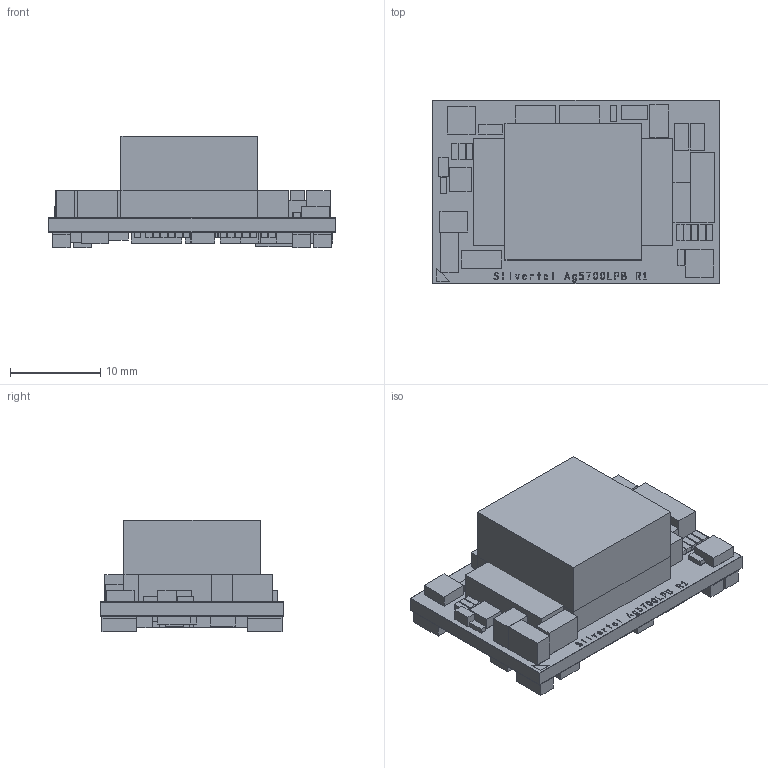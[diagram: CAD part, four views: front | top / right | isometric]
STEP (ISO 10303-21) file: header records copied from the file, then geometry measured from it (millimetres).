
FILE_DESCRIPTION(('FreeCAD Model'),'2;1');
FILE_NAME('Open CASCADE Shape Model','2025-10-20T16:30:55',(''),(''), 'Open CASCADE STEP processor 7.8','FreeCAD','Unknown');
FILE_SCHEMA(('AUTOMOTIVE_DESIGN { 1 0 10303 214 1 1 1 1 }'));
Products named in the file (1): Ag5700_simplified
Bounding box: 31.75 x 20.32 x 12.33 mm (x, y, z)
Surface area: 7553.8 mm2 (no closed solid volume)
Topology: 0 solids, 2851 shells, 2851 faces, 15310 edges, 15310 vertices
Faces by surface type: extrusion 2656, revolution 195
Entity records: 184777 total; most frequent: CARTESIAN_POINT 33691, DIRECTION 21790, VECTOR 20033, LINE 17377, ORIENTED_EDGE 15310, EDGE_CURVE 15310, VERTEX_POINT 15310, FACE_BOUND 3561
